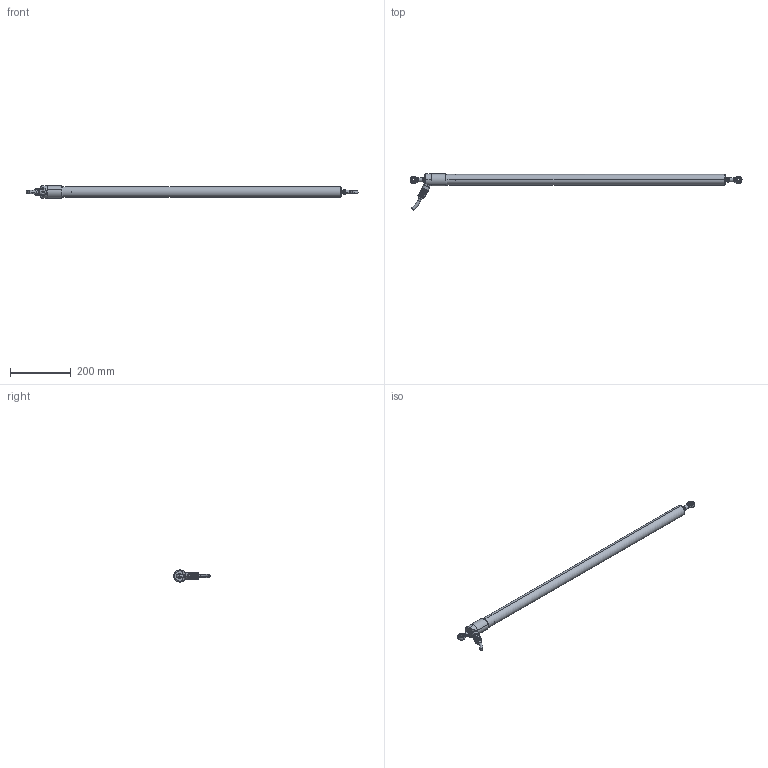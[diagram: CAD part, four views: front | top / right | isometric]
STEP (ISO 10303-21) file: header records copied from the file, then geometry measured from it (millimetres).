
FILE_DESCRIPTION (( 'STEP AP214' ), '1' );
FILE_NAME ('S125-800AK50NU.STEP', '2025-04-10T10:26:25', ( '' ), ( '' ), 'SwSTEP 2.0', 'SolidWorks 2023', '' );
FILE_SCHEMA (( 'AUTOMOTIVE_DESIGN' ));
Length unit declared in the file: millimetre
Products named in the file (1): S125-800AK50NU
Bounding box: 1093.25 x 120.28 x 40 mm (x, y, z)
Surface area: 158769.9 mm2 (no closed solid volume)
Topology: 0 solids, 18 shells, 246 faces, 974 edges, 654 vertices
Faces by surface type: cylinder 163, plane 38, cone 22, torus 13, sphere 8, bspline 2
Entity records: 12868 total; most frequent: CARTESIAN_POINT 4793, DIRECTION 1773, ORIENTED_EDGE 1619, EDGE_CURVE 960, AXIS2_PLACEMENT_3D 734, VERTEX_POINT 648, CIRCLE 489, LINE 305
